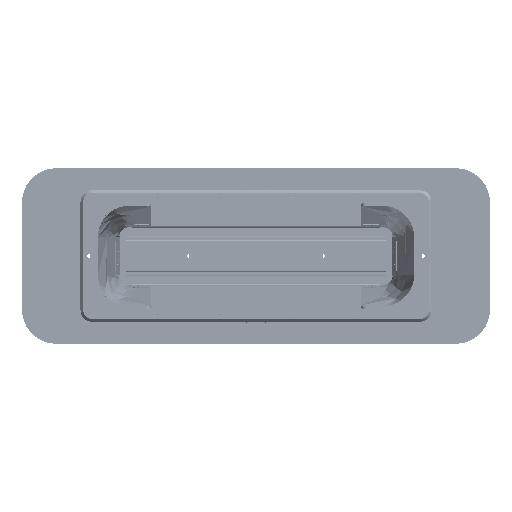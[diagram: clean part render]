
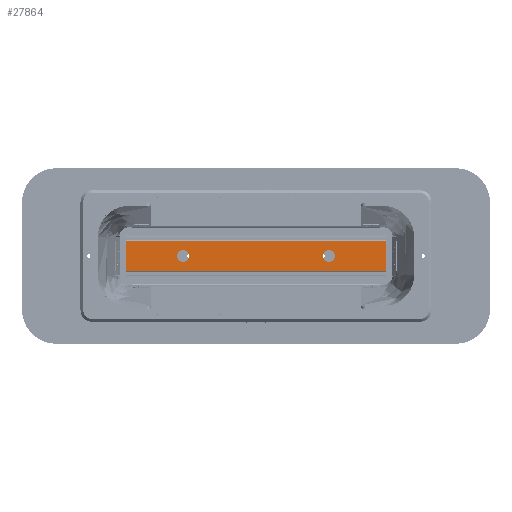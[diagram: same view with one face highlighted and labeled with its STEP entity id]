
A CAD part, front view. The second image highlights one B-rep face of the part: STEP entity #27864.
In plain terms, the highlighted planar face has unit normal (0, -1, 0).
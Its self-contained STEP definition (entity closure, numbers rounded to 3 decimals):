
#510 = ORIENTED_EDGE ( 'NONE', *, *, #39740, .T. ) ;
#1014 = ORIENTED_EDGE ( 'NONE', *, *, #6728, .F. ) ;
#1775 = CARTESIAN_POINT ( 'NONE',  ( 0., -2., -540. ) ) ;
#1972 = VECTOR ( 'NONE', #8395, 1000. ) ;
#2940 = VERTEX_POINT ( 'NONE', #32547 ) ;
#3282 = VERTEX_POINT ( 'NONE', #13786 ) ;
#3641 = AXIS2_PLACEMENT_3D ( 'NONE', #35938, #25888, #19344 ) ;
#4282 = CARTESIAN_POINT ( 'NONE',  ( -106., -2., 891. ) ) ;
#5864 = AXIS2_PLACEMENT_3D ( 'NONE', #29199, #35321, #19393 ) ;
#6041 = EDGE_LOOP ( 'NONE', ( #37891 ) ) ;
#6728 = EDGE_CURVE ( 'NONE', #9149, #34990, #24381, .T. ) ;
#8395 = DIRECTION ( 'NONE',  ( 0., 0., -1. ) ) ;
#8569 = AXIS2_PLACEMENT_3D ( 'NONE', #37907, #31338, #21304 ) ;
#9149 = VERTEX_POINT ( 'NONE', #41042 ) ;
#10428 = ORIENTED_EDGE ( 'NONE', *, *, #31510, .F. ) ;
#12004 = VERTEX_POINT ( 'NONE', #33718 ) ;
#12164 = FACE_BOUND ( 'NONE', #6041, .T. ) ;
#13786 = CARTESIAN_POINT ( 'NONE',  ( 0., -2., 460. ) ) ;
#13848 = EDGE_LOOP ( 'NONE', ( #1014, #510, #25279, #32013 ) ) ;
#14087 = LINE ( 'NONE', #28015, #1972 ) ;
#17472 = DIRECTION ( 'NONE',  ( 0., 0., 1. ) ) ;
#17677 = LINE ( 'NONE', #30752, #32736 ) ;
#19344 = DIRECTION ( 'NONE',  ( 0., 0., -1. ) ) ;
#19393 = DIRECTION ( 'NONE',  ( 0., 0., -1. ) ) ;
#20714 = LINE ( 'NONE', #23985, #35774 ) ;
#21065 = CIRCLE ( 'NONE', #3641, 40. ) ;
#21304 = DIRECTION ( 'NONE',  ( 0., 0., -1. ) ) ;
#23985 = CARTESIAN_POINT ( 'NONE',  ( -106., -2., -891. ) ) ;
#24064 = CARTESIAN_POINT ( 'NONE',  ( 104.5, -2., 891. ) ) ;
#24381 = LINE ( 'NONE', #4282, #41598 ) ;
#24583 = FACE_BOUND ( 'NONE', #35203, .T. ) ;
#25034 = PLANE ( 'NONE',  #8569 ) ;
#25279 = ORIENTED_EDGE ( 'NONE', *, *, #26204, .F. ) ;
#25888 = DIRECTION ( 'NONE',  ( 0., -1., 0. ) ) ;
#26204 = EDGE_CURVE ( 'NONE', #12004, #2940, #20714, .T. ) ;
#27861 = DIRECTION ( 'NONE',  ( 1., 0., 0. ) ) ;
#27864 = ADVANCED_FACE ( 'NONE', ( #12164, #24583, #41836 ), #25034, .T. ) ;
#28015 = CARTESIAN_POINT ( 'NONE',  ( -104.5, -2., 891. ) ) ;
#28118 = EDGE_CURVE ( 'NONE', #42602, #42602, #21065, .T. ) ;
#29199 = CARTESIAN_POINT ( 'NONE',  ( 0., -2., 500. ) ) ;
#30752 = CARTESIAN_POINT ( 'NONE',  ( 104.5, -2., -891. ) ) ;
#31338 = DIRECTION ( 'NONE',  ( 0., -1., 0. ) ) ;
#31510 = EDGE_CURVE ( 'NONE', #3282, #3282, #32350, .T. ) ;
#32013 = ORIENTED_EDGE ( 'NONE', *, *, #42332, .T. ) ;
#32350 = CIRCLE ( 'NONE', #5864, 40. ) ;
#32547 = CARTESIAN_POINT ( 'NONE',  ( -104.5, -2., -891. ) ) ;
#32736 = VECTOR ( 'NONE', #17472, 1000. ) ;
#33718 = CARTESIAN_POINT ( 'NONE',  ( 104.5, -2., -891. ) ) ;
#34023 = DIRECTION ( 'NONE',  ( -1., 0., 0. ) ) ;
#34990 = VERTEX_POINT ( 'NONE', #24064 ) ;
#35203 = EDGE_LOOP ( 'NONE', ( #10428 ) ) ;
#35321 = DIRECTION ( 'NONE',  ( 0., -1., 0. ) ) ;
#35774 = VECTOR ( 'NONE', #34023, 1000. ) ;
#35938 = CARTESIAN_POINT ( 'NONE',  ( 0., -2., -500. ) ) ;
#37891 = ORIENTED_EDGE ( 'NONE', *, *, #28118, .F. ) ;
#37907 = CARTESIAN_POINT ( 'NONE',  ( 0., -2., 0. ) ) ;
#39740 = EDGE_CURVE ( 'NONE', #9149, #2940, #14087, .T. ) ;
#41042 = CARTESIAN_POINT ( 'NONE',  ( -104.5, -2., 891. ) ) ;
#41598 = VECTOR ( 'NONE', #27861, 1000. ) ;
#41836 = FACE_OUTER_BOUND ( 'NONE', #13848, .T. ) ;
#42332 = EDGE_CURVE ( 'NONE', #12004, #34990, #17677, .T. ) ;
#42602 = VERTEX_POINT ( 'NONE', #1775 ) ;
